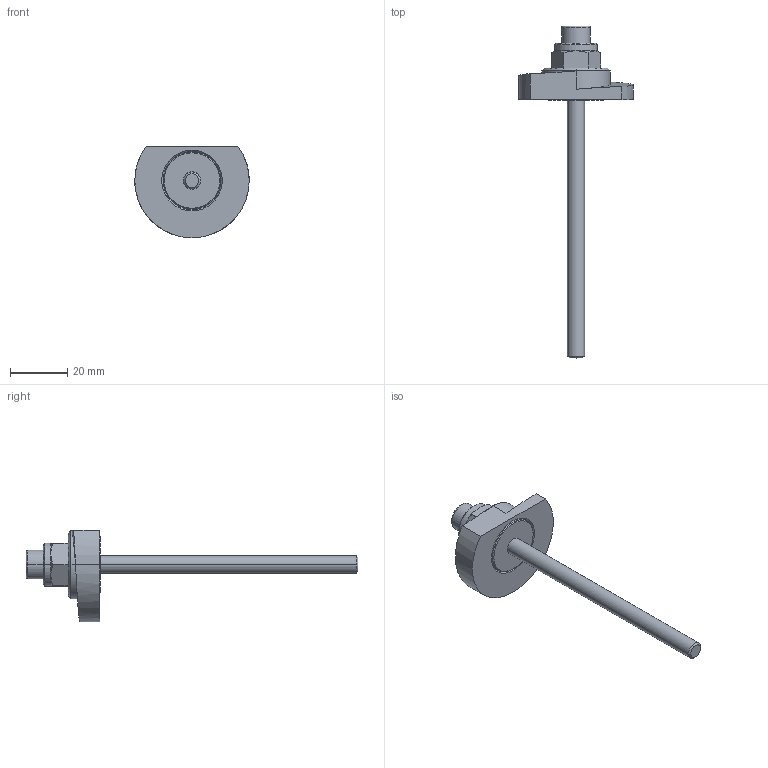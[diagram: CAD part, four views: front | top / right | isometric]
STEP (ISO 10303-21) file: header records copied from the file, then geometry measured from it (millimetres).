
FILE_DESCRIPTION (( 'STEP AP214' ), '1' );
FILE_NAME ('918.1-40-SKS-R-90.step', '2024-05-15T13:01:28', ( '' ), ( '' ), 'SwSTEP 2.0', 'SolidWorks 2022', '' );
FILE_SCHEMA (( 'AUTOMOTIVE_DESIGN' ));
Length unit declared in the file: millimetre
Products named in the file (1): 918.1-40-SKS-R-90
Bounding box: 40 x 116 x 32 mm (x, y, z)
Volume: 13494.7 mm3; surface area: 7904.9 mm2
Topology: 1 solids, 2 shells, 82 faces, 185 edges, 116 vertices
Faces by surface type: cylinder 30, plane 26, cone 22, torus 2, bspline 2
Entity records: 2641 total; most frequent: CARTESIAN_POINT 753, DIRECTION 407, ORIENTED_EDGE 370, EDGE_CURVE 185, AXIS2_PLACEMENT_3D 163, VERTEX_POINT 116, EDGE_LOOP 93, ADVANCED_FACE 82
